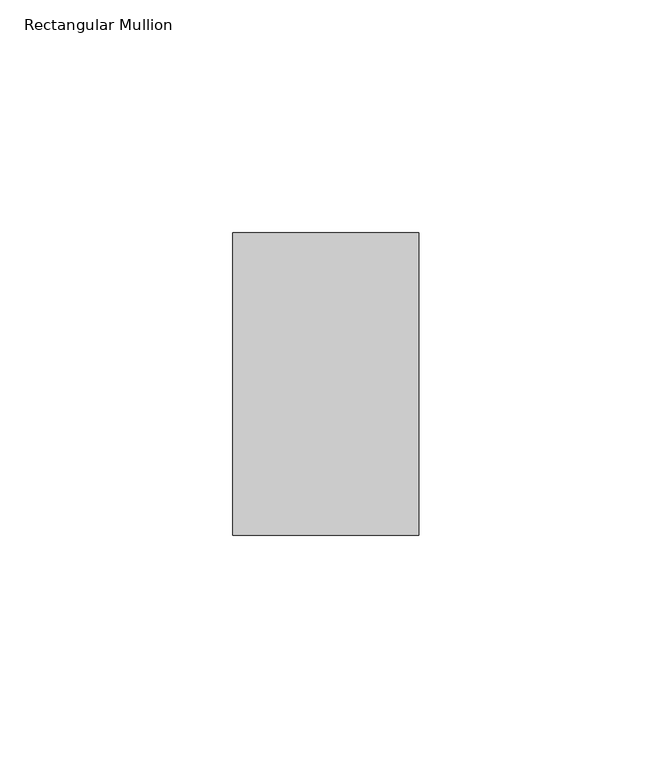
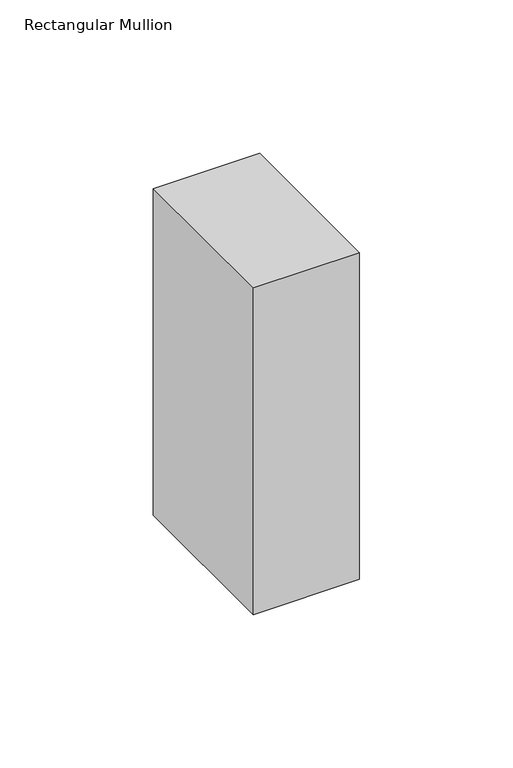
"""IFC4 building model written with IfcOpenShell, lengths in millimetres: member geometry, Rectangular Mullion : Batten_Timber_Modinex_Austratus_Grid_Fascia_40x65_Blackbutt."""

from ifc_helpers import new_model, si_unit, frame, origin, place, context, project, spatial, polyline, outline, extrude, source, transform, mapped, element, save


def rectangular_mullion_037ca3f9(model_context):
    return source(origin(), model_context, "Body", "SweptSolid", [
        extrude(outline(polyline([(-40.0, 65.0), (0.0, 65.0), (0.0, 0.0), (-40.0, 0.0), (-40.0, 65.0)])), frame((0.0, 0.0, -130.0000003), z_axis=(0.0, 0.0, 1.0), x_axis=(1.0, 0.0, 0.0)), (0.0, 0.0, 1.0), 130.0000003),
    ])


if __name__ == "__main__":
    model = new_model("IFC4")
    model_context = context("Model", 3, world=origin())
    ifc_project = project(units=[si_unit("LENGTHUNIT", "METRE", prefix="MILLI")], contexts=[model_context])
    site = spatial("IfcSite", under=ifc_project)
    building = spatial("IfcBuilding", under=site)
    placement = place(None, origin())
    rectangular_mullion_shape = rectangular_mullion_037ca3f9(model_context)
    element("IfcMember", 1, ObjectType="Rectangular Mullion : Batten_Timber_Modinex_Austratus_Grid_Fascia_40x65_Blackbutt", at=placement, inside=building, context=model_context, shape_type="MappedRepresentation", body=[
        mapped(rectangular_mullion_shape, transform((0.0, 0.0, 0.0), x_axis=(1.0, 0.0, 0.0), y_axis=(0.0, 1.0, 0.0), z_axis=(0.0, 0.0, 1.0))),
    ])
    save(model, "model.ifc")
